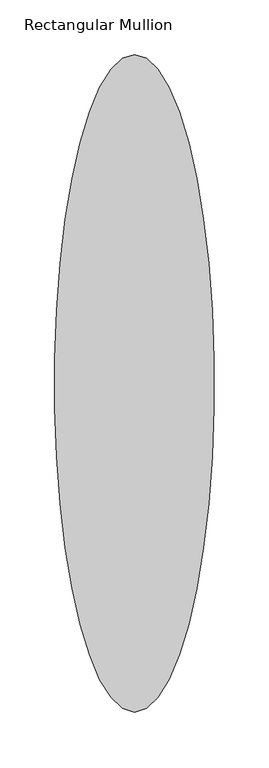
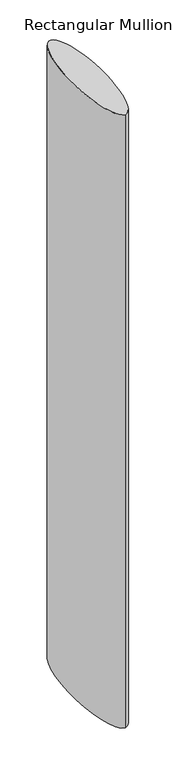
"""IFC4 building model written with IfcOpenShell, lengths in millimetres: member geometry, Rectangular Mullion : RSen_21_CWM_blade - wing 600 - 0° perforated_gen_duco projects."""

from ifc_helpers import new_model, si_unit, point, frame, origin, place, context, project, spatial, ellipse_curve, trimmed, source, transform, mapped, element, save
from ifc_brep_helpers import plane_surface, extruded_surface, advanced_brep


def rectangular_mullion_382eacee(model_context):
    return source(origin(), model_context, "Body", "AdvancedBrep", [
        advanced_brep(
        [(0.0, 5.0, 0.0), (0.0, 605.0, 0.0), (0.0, 5.0, -3000.0), (0.0, 605.0, -3000.0)],
        [
            (0, 1, ellipse_curve(frame((0.0, 305.0, 0.0), z_axis=(0.0, 0.0, 1.0), x_axis=(0.0, 1.0, 0.0)), 300.0, 73.0)),
            (1, 0, ellipse_curve(frame((0.0, 305.0, 0.0), z_axis=(0.0, 0.0, 1.0), x_axis=(0.0, 1.0, 0.0)), 300.0, 73.0)),
            (2, 3, ellipse_curve(frame((0.0, 305.0, -3000.0), z_axis=(0.0, 0.0, -1.0), x_axis=(0.0, 1.0, 0.0)), 300.0, 73.0)),
            (3, 2, ellipse_curve(frame((0.0, 305.0, -3000.0), z_axis=(0.0, 0.0, -1.0), x_axis=(0.0, 1.0, 0.0)), 300.0, 73.0)),
            (0, 2),
            (3, 1),
        ],
        [
            plane_surface(frame((0.0, -605.0, 0.0), z_axis=(0.0, 0.0, 1.0), x_axis=(-1.0, 0.0, 0.0))),
            plane_surface(frame((0.0, -605.0, -3000.0), z_axis=(0.0, 0.0, -1.0), x_axis=(-1.0, 0.0, 0.0))),
            extruded_surface(trimmed(ellipse_curve(frame((0.0, 305.0, -3000.0), z_axis=(0.0, 0.0, 1.0), x_axis=(0.0, 1.0, 0.0)), 300.0, 73.0), [point((0.0, 5.0, -3000.0))], [point((0.0, 605.0, -3000.0))], True, "CARTESIAN"), (0.0, 0.0, 3000.0), 3000.0),
            extruded_surface(trimmed(ellipse_curve(frame((0.0, 305.0, -3000.0), z_axis=(0.0, 0.0, 1.0), x_axis=(0.0, 1.0, 0.0)), 300.0, 73.0), [point((0.0, 605.0, -3000.0))], [point((0.0, 5.0, -3000.0))], True, "CARTESIAN"), (0.0, 0.0, 3000.0), 3000.0),
        ],
        [
            (0, [[1, 2]]),
            (1, [[3, 4]]),
            (2, [[-1, 5, -4, 6]]),
            (3, [[-2, -6, -3, -5]]),
        ],
    ),
    ])


if __name__ == "__main__":
    model = new_model("IFC4")
    model_context = context("Model", 3, world=origin())
    ifc_project = project(units=[si_unit("LENGTHUNIT", "METRE", prefix="MILLI")], contexts=[model_context])
    site = spatial("IfcSite", under=ifc_project)
    building = spatial("IfcBuilding", under=site)
    placement = place(None, origin())
    rectangular_mullion_shape = rectangular_mullion_382eacee(model_context)
    element("IfcMember", 1, ObjectType="Rectangular Mullion : RSen_21_CWM_blade - wing 600 - 0° perforated_gen_duco projects", at=placement, inside=building, context=model_context, shape_type="MappedRepresentation", body=[
        mapped(rectangular_mullion_shape, transform((0.0, 0.0, 0.0), x_axis=(1.0, 0.0, 0.0), y_axis=(0.0, 1.0, 0.0), z_axis=(0.0, 0.0, 1.0))),
    ])
    save(model, "model.ifc")
